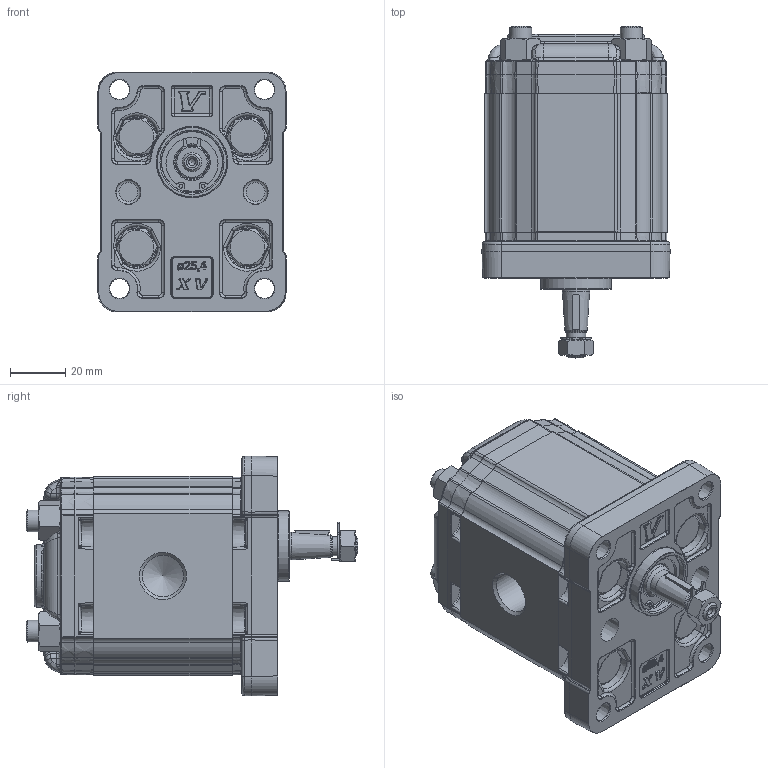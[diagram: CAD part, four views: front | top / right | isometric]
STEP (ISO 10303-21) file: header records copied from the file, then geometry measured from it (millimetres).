
FILE_DESCRIPTION(/* description */ ('Unknown'),/* implementation_level */ '2;1');
FILE_NAME(/* name */ 'X1U2301FBBA',/* time_stamp */ '2026-05-26T18:38:21+02:00',/* author */ ('Unknown'),/* organization */ ('Unknown'),/* preprocessor_version */ 'ST-DEVELOPER v16.7',/* originating_system */ 'Solid Edge',/* authorisation */ 'Unknown');
FILE_SCHEMA (('AUTOMOTIVE_DESIGN {1 0 10303 214 3 1 1}'));
Products named in the file (5): X1U2301FBBA; X1U01; 1F; X1BBH50; XU101-A
Assembly tree (4 placements, depth 2):
  X1U2301FBBA
    X1U01
    1F
    X1BBH50
    XU101-A
Bounding box: 68 x 119.99 x 86.7 mm (x, y, z)
Volume: 349212.8 mm3; surface area: 73289.7 mm2
Topology: 6 solids, 7 shells, 2829 faces, 6699 edges, 3966 vertices
Faces by surface type: cylinder 896, bspline 682, plane 620, torus 315, cone 263, sphere 53
Full cylindrical faces by diameter (mm): 1.447 x2, 2.5 x1, 3.65 x2, 7 x2, 7.15 x4, 7.25 x1, 8 x12, 8.5 x6, 9 x2, 9.92 x1, 10.5 x2, 11.965 x1, 12 x4, 12.4 x1, 14.95 x2, 15.115 x1, 17.147 x1, 19 x1, 20 x1, 21.8 x1, 22 x2, 22.2 x1, 23 x1, 25.4 x1
Entity records: 138530 total; most frequent: CARTESIAN_POINT 57862, ORIENTED_EDGE 12820, DIRECTION 12319, EDGE_CURVE 6410, AXIS2_PLACEMENT_3D 5108, VERTEX_POINT 3875, FACE_BOUND 3139, EDGE_LOOP 3135
